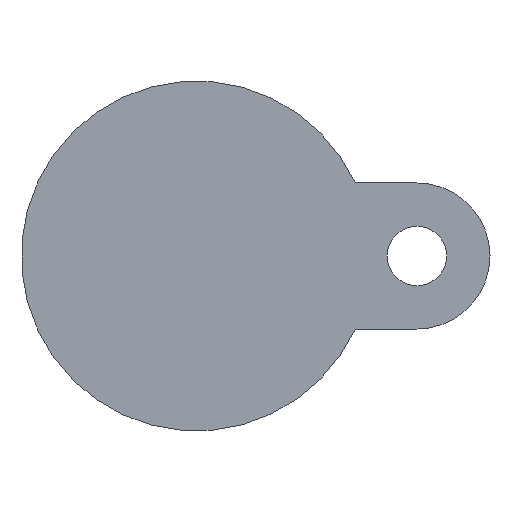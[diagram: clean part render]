
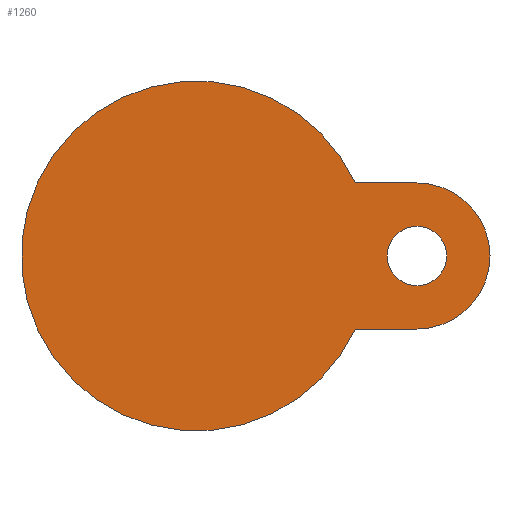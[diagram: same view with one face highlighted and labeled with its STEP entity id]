
A CAD part, front view. The second image highlights one B-rep face of the part: STEP entity #1260.
In plain terms, the highlighted planar face has unit normal (0, -1, 0).
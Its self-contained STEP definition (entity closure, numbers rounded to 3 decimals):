
#80 = CARTESIAN_POINT ( 'NONE',  ( 46.797, -28., 21.5 ) ) ;
#159 = LINE ( 'NONE', #3270, #2370 ) ;
#160 = DIRECTION ( 'NONE',  ( -1., 0., 0. ) ) ;
#392 = EDGE_CURVE ( 'NONE', #3477, #2037, #1215, .T. ) ;
#563 = FACE_BOUND ( 'NONE', #4373, .T. ) ;
#598 = AXIS2_PLACEMENT_3D ( 'NONE', #2739, #1270, #1635 ) ;
#714 = VERTEX_POINT ( 'NONE', #2927 ) ;
#902 = DIRECTION ( 'NONE',  ( -1., 0., 0. ) ) ;
#919 = ORIENTED_EDGE ( 'NONE', *, *, #1130, .F. ) ;
#999 = AXIS2_PLACEMENT_3D ( 'NONE', #1028, #3427, #4421 ) ;
#1019 = VECTOR ( 'NONE', #160, 1000. ) ;
#1028 = CARTESIAN_POINT ( 'NONE',  ( 65., -28., 0. ) ) ;
#1130 = EDGE_CURVE ( 'NONE', #2801, #3477, #159, .T. ) ;
#1212 = CARTESIAN_POINT ( 'NONE',  ( 65., -28., 0. ) ) ;
#1215 = CIRCLE ( 'NONE', #999, 21.5 ) ;
#1260 = ADVANCED_FACE ( 'NONE', ( #563, #1928 ), #4021, .T. ) ;
#1266 = CARTESIAN_POINT ( 'NONE',  ( 46.797, -28., -21.5 ) ) ;
#1270 = DIRECTION ( 'NONE',  ( 0., -1., 0. ) ) ;
#1528 = CIRCLE ( 'NONE', #598, 51.5 ) ;
#1600 = AXIS2_PLACEMENT_3D ( 'NONE', #1212, #2591, #902 ) ;
#1635 = DIRECTION ( 'NONE',  ( 1., 0., 0. ) ) ;
#1681 = DIRECTION ( 'NONE',  ( -1., 0., 0. ) ) ;
#1739 = AXIS2_PLACEMENT_3D ( 'NONE', #2312, #2331, #1681 ) ;
#1767 = ORIENTED_EDGE ( 'NONE', *, *, #3931, .F. ) ;
#1824 = DIRECTION ( 'NONE',  ( 1., 0., 0. ) ) ;
#1851 = CARTESIAN_POINT ( 'NONE',  ( 65., -28., 21.5 ) ) ;
#1928 = FACE_OUTER_BOUND ( 'NONE', #2264, .T. ) ;
#2017 = ORIENTED_EDGE ( 'NONE', *, *, #4012, .T. ) ;
#2037 = VERTEX_POINT ( 'NONE', #2179 ) ;
#2060 = ORIENTED_EDGE ( 'NONE', *, *, #3951, .T. ) ;
#2179 = CARTESIAN_POINT ( 'NONE',  ( 65., -28., -21.5 ) ) ;
#2243 = CIRCLE ( 'NONE', #1600, 8.75 ) ;
#2264 = EDGE_LOOP ( 'NONE', ( #2060, #1767, #2693, #919 ) ) ;
#2312 = CARTESIAN_POINT ( 'NONE',  ( 65., -28., 0. ) ) ;
#2314 = VERTEX_POINT ( 'NONE', #3608 ) ;
#2331 = DIRECTION ( 'NONE',  ( 0., 1., 0. ) ) ;
#2370 = VECTOR ( 'NONE', #1824, 1000. ) ;
#2591 = DIRECTION ( 'NONE',  ( 0., 1., 0. ) ) ;
#2693 = ORIENTED_EDGE ( 'NONE', *, *, #392, .F. ) ;
#2739 = CARTESIAN_POINT ( 'NONE',  ( 0., -28., 0. ) ) ;
#2801 = VERTEX_POINT ( 'NONE', #80 ) ;
#2927 = CARTESIAN_POINT ( 'NONE',  ( 73.75, -28., 0. ) ) ;
#3187 = VERTEX_POINT ( 'NONE', #1266 ) ;
#3247 = LINE ( 'NONE', #4253, #1019 ) ;
#3270 = CARTESIAN_POINT ( 'NONE',  ( 41.5, -28., 21.5 ) ) ;
#3309 = CARTESIAN_POINT ( 'NONE',  ( 51.5, -28., 0. ) ) ;
#3318 = AXIS2_PLACEMENT_3D ( 'NONE', #3309, #4369, #3708 ) ;
#3427 = DIRECTION ( 'NONE',  ( 0., 1., 0. ) ) ;
#3477 = VERTEX_POINT ( 'NONE', #1851 ) ;
#3608 = CARTESIAN_POINT ( 'NONE',  ( 56.25, -28., 0. ) ) ;
#3609 = EDGE_CURVE ( 'NONE', #714, #2314, #2243, .T. ) ;
#3685 = CIRCLE ( 'NONE', #1739, 8.75 ) ;
#3692 = ORIENTED_EDGE ( 'NONE', *, *, #3609, .T. ) ;
#3708 = DIRECTION ( 'NONE',  ( 1., 0., 0. ) ) ;
#3931 = EDGE_CURVE ( 'NONE', #2037, #3187, #3247, .T. ) ;
#3951 = EDGE_CURVE ( 'NONE', #2801, #3187, #1528, .T. ) ;
#4012 = EDGE_CURVE ( 'NONE', #2314, #714, #3685, .T. ) ;
#4021 = PLANE ( 'NONE',  #3318 ) ;
#4253 = CARTESIAN_POINT ( 'NONE',  ( 41.5, -28., -21.5 ) ) ;
#4369 = DIRECTION ( 'NONE',  ( 0., -1., 0. ) ) ;
#4373 = EDGE_LOOP ( 'NONE', ( #2017, #3692 ) ) ;
#4421 = DIRECTION ( 'NONE',  ( 1., 0., 0. ) ) ;
